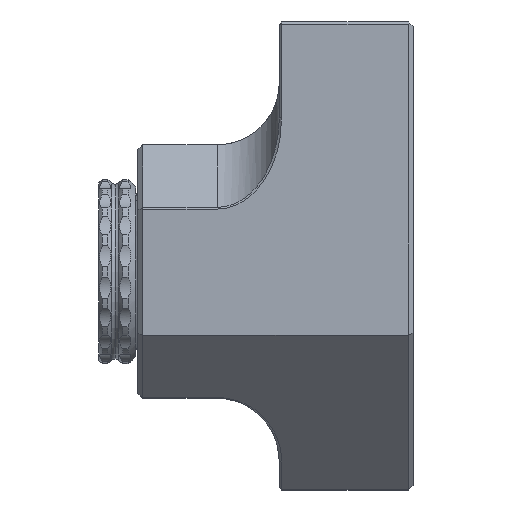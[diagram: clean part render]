
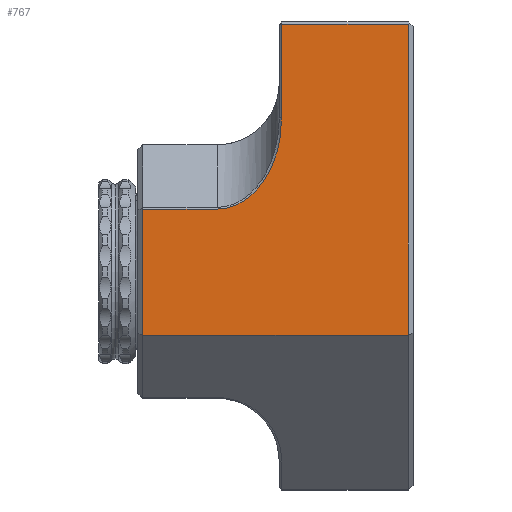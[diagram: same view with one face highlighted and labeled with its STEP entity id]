
A CAD part, left-side view. The second image highlights one B-rep face of the part: STEP entity #767.
In plain terms, the highlighted planar face has unit normal (-1, 0, 0).
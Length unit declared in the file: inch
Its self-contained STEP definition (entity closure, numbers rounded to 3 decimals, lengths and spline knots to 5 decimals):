
#285 = CARTESIAN_POINT ( 'NONE',  ( -2.475, 1.09252, -0.75521 ) ) ;
#689 = VECTOR ( 'NONE', #20252, 39.37008 ) ;
#757 = CARTESIAN_POINT ( 'NONE',  ( -2.475, 0.661, -0.70658 ) ) ;
#767 = ADVANCED_FACE ( 'NONE', ( #10219 ), #4530, .F. ) ;
#1687 = CARTESIAN_POINT ( 'NONE',  ( -2.475, 0.01969, -1.26476 ) ) ;
#1776 = CARTESIAN_POINT ( 'NONE',  ( -2.475, 0.75726, -0.75282 ) ) ;
#2353 = CARTESIAN_POINT ( 'NONE',  ( -2.475, 0.53134, -0.43565 ) ) ;
#2583 = EDGE_CURVE ( 'NONE', #10623, #12830, #12200, .T. ) ;
#3869 = ORIENTED_EDGE ( 'NONE', *, *, #22065, .T. ) ;
#3959 = VERTEX_POINT ( 'NONE', #5511 ) ;
#4026 = ORIENTED_EDGE ( 'NONE', *, *, #7478, .T. ) ;
#4159 = CARTESIAN_POINT ( 'NONE',  ( -2.475, 0.53134, -0.01 ) ) ;
#4422 = CARTESIAN_POINT ( 'NONE',  ( -2.475, 0.63278, -0.6799 ) ) ;
#4530 = PLANE ( 'NONE',  #11518 ) ;
#4651 = CARTESIAN_POINT ( 'NONE',  ( -2.475, 0.53134, -0.38751 ) ) ;
#4917 = VECTOR ( 'NONE', #7686, 39.37008 ) ;
#5212 = EDGE_CURVE ( 'NONE', #20899, #19218, #5761, .T. ) ;
#5346 = LINE ( 'NONE', #14185, #15284 ) ;
#5511 = CARTESIAN_POINT ( 'NONE',  ( -2.475, 0.01969, -0.01 ) ) ;
#5761 = LINE ( 'NONE', #285, #4917 ) ;
#6104 = EDGE_CURVE ( 'NONE', #12830, #20899, #8791, .T. ) ;
#6117 = DIRECTION ( 'NONE',  ( 1., 0., 0. ) ) ;
#6202 = VECTOR ( 'NONE', #11647, 39.37008 ) ;
#6241 = CARTESIAN_POINT ( 'NONE',  ( -2.475, 0.53811, -0.48377 ) ) ;
#6269 = EDGE_CURVE ( 'NONE', #11583, #3959, #23735, .T. ) ;
#6289 = EDGE_LOOP ( 'NONE', ( #20860, #22173, #3869, #4026, #15917, #18276, #6328 ) ) ;
#6328 = ORIENTED_EDGE ( 'NONE', *, *, #2583, .T. ) ;
#7038 = DIRECTION ( 'NONE',  ( 0., 1., 0. ) ) ;
#7478 = EDGE_CURVE ( 'NONE', #17392, #11583, #19956, .T. ) ;
#7686 = DIRECTION ( 'NONE',  ( 0., 1., 0. ) ) ;
#8791 = B_SPLINE_CURVE_WITH_KNOTS ( 'NONE', 3,
 ( #11677, #2353, #6241, #19065, #10995, #22801, #4422, #757, #12808, #22122, #18376, #1776, #9177, #16552 ),
 .UNSPECIFIED., .F., .F.,
 ( 4, 2, 2, 2, 2, 2, 4 ),
 ( 0., 0.25, 0.5, 0.625, 0.75, 0.875, 1. ),
 .UNSPECIFIED. ) ;
#9177 = CARTESIAN_POINT ( 'NONE',  ( -2.475, 0.77429, -0.75521 ) ) ;
#9968 = VECTOR ( 'NONE', #16070, 39.37008 ) ;
#10219 = FACE_OUTER_BOUND ( 'NONE', #6289, .T. ) ;
#10382 = CARTESIAN_POINT ( 'NONE',  ( -2.475, 0.53134, 0. ) ) ;
#10623 = VERTEX_POINT ( 'NONE', #4159 ) ;
#10995 = CARTESIAN_POINT ( 'NONE',  ( -2.475, 0.58344, -0.61349 ) ) ;
#11518 = AXIS2_PLACEMENT_3D ( 'NONE', #21117, #6117, #15434 ) ;
#11583 = VERTEX_POINT ( 'NONE', #1687 ) ;
#11610 = VECTOR ( 'NONE', #16314, 39.37008 ) ;
#11647 = DIRECTION ( 'NONE',  ( 0., 0., -1. ) ) ;
#11677 = CARTESIAN_POINT ( 'NONE',  ( -2.475, 0.53134, -0.38751 ) ) ;
#12200 = LINE ( 'NONE', #10382, #9968 ) ;
#12713 = CARTESIAN_POINT ( 'NONE',  ( -2.475, 0.79134, -0.75521 ) ) ;
#12808 = CARTESIAN_POINT ( 'NONE',  ( -2.475, 0.67616, -0.71803 ) ) ;
#12830 = VERTEX_POINT ( 'NONE', #4651 ) ;
#13478 = LINE ( 'NONE', #20855, #6202 ) ;
#13501 = CARTESIAN_POINT ( 'NONE',  ( -2.475, 1.09252, -1.26476 ) ) ;
#14185 = CARTESIAN_POINT ( 'NONE',  ( -2.475, 1.1122, -0.01 ) ) ;
#15284 = VECTOR ( 'NONE', #7038, 39.37008 ) ;
#15434 = DIRECTION ( 'NONE',  ( 0., 0., -1. ) ) ;
#15917 = ORIENTED_EDGE ( 'NONE', *, *, #6269, .T. ) ;
#16070 = DIRECTION ( 'NONE',  ( 0., 0., -1. ) ) ;
#16211 = EDGE_CURVE ( 'NONE', #3959, #10623, #5346, .T. ) ;
#16314 = DIRECTION ( 'NONE',  ( 0., -1., 0. ) ) ;
#16552 = CARTESIAN_POINT ( 'NONE',  ( -2.475, 0.79134, -0.75521 ) ) ;
#17392 = VERTEX_POINT ( 'NONE', #13501 ) ;
#18134 = CARTESIAN_POINT ( 'NONE',  ( -2.475, 1.1122, -1.26476 ) ) ;
#18276 = ORIENTED_EDGE ( 'NONE', *, *, #16211, .T. ) ;
#18376 = CARTESIAN_POINT ( 'NONE',  ( -2.475, 0.72397, -0.74346 ) ) ;
#18562 = CARTESIAN_POINT ( 'NONE',  ( -2.475, 0.01969, 0. ) ) ;
#19065 = CARTESIAN_POINT ( 'NONE',  ( -2.475, 0.56415, -0.57267 ) ) ;
#19218 = VERTEX_POINT ( 'NONE', #20279 ) ;
#19956 = LINE ( 'NONE', #18134, #11610 ) ;
#20252 = DIRECTION ( 'NONE',  ( 0., 0., 1. ) ) ;
#20279 = CARTESIAN_POINT ( 'NONE',  ( -2.475, 1.09252, -0.75521 ) ) ;
#20855 = CARTESIAN_POINT ( 'NONE',  ( -2.475, 1.09252, 0. ) ) ;
#20860 = ORIENTED_EDGE ( 'NONE', *, *, #6104, .T. ) ;
#20899 = VERTEX_POINT ( 'NONE', #12713 ) ;
#21117 = CARTESIAN_POINT ( 'NONE',  ( -2.475, 1.1122, 0. ) ) ;
#22065 = EDGE_CURVE ( 'NONE', #19218, #17392, #13478, .T. ) ;
#22122 = CARTESIAN_POINT ( 'NONE',  ( -2.475, 0.70752, -0.7364 ) ) ;
#22173 = ORIENTED_EDGE ( 'NONE', *, *, #5212, .T. ) ;
#22801 = CARTESIAN_POINT ( 'NONE',  ( -2.475, 0.61952, -0.66452 ) ) ;
#23735 = LINE ( 'NONE', #18562, #689 ) ;
